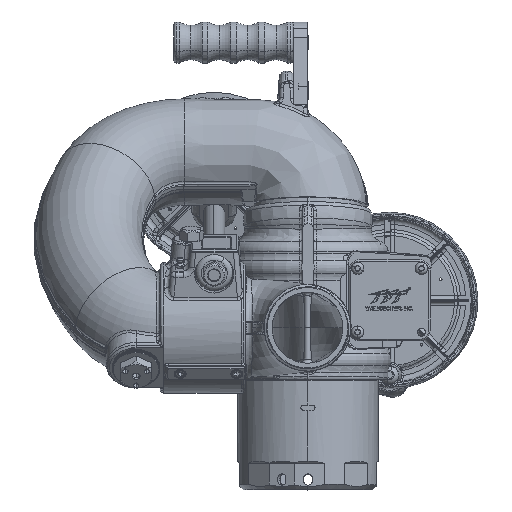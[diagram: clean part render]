
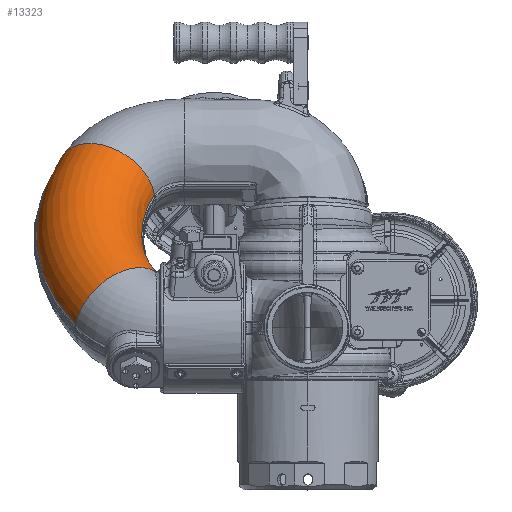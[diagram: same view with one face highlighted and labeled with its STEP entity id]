
A CAD part, top view. The second image highlights one B-rep face of the part: STEP entity #13323.
In plain terms, the highlighted toroidal (fillet/blend) face has major radius 177.8 mm and minor radius 47.625 mm.
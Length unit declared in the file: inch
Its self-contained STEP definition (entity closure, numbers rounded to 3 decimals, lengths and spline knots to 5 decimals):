
#2594 = CARTESIAN_POINT ( 'NONE',  ( -5.41843, 3.83215, 6.20855 ) ) ;
#3127 = EDGE_CURVE ( 'NONE', #125237, #134869, #101356, .T. ) ;
#4899 = CARTESIAN_POINT ( 'NONE',  ( -0.718, 4.91629, 3.26391 ) ) ;
#5608 = CARTESIAN_POINT ( 'NONE',  ( -5.39928, 3.84554, 5.80264 ) ) ;
#6657 = CARTESIAN_POINT ( 'NONE',  ( -5.41904, 3.8505, 6.06765 ) ) ;
#9954 = CIRCLE ( 'NONE', #157940, 1.875 ) ;
#11915 = TOROIDAL_SURFACE ( 'NONE', #150615, 7., 1.875 ) ;
#12062 = EDGE_CURVE ( 'NONE', #85840, #26609, #68679, .T. ) ;
#12130 = CARTESIAN_POINT ( 'NONE',  ( -0.718, 5.11304, 3.44106 ) ) ;
#12488 = CARTESIAN_POINT ( 'NONE',  ( -6.61621, 2.39384, 6.06538 ) ) ;
#13181 = DIRECTION ( 'NONE',  ( 0., 0.743, 0.669 ) ) ;
#13323 = ADVANCED_FACE ( 'NONE', ( #23693 ), #11915, .T. ) ;
#16028 = CARTESIAN_POINT ( 'NONE',  ( -5.41745, 3.8233, 6.26025 ) ) ;
#16342 = DIRECTION ( 'NONE',  ( 0., 0.743, 0.669 ) ) ;
#17154 = EDGE_CURVE ( 'NONE', #26609, #125237, #60540, .T. ) ;
#17807 = DIRECTION ( 'NONE',  ( 0., -0.669, 0.743 ) ) ;
#17964 = CARTESIAN_POINT ( 'NONE',  ( -5.34611, 3.73289, 5.42323 ) ) ;
#20927 = CIRCLE ( 'NONE', #92566, 1.875 ) ;
#23693 = FACE_OUTER_BOUND ( 'NONE', #105165, .T. ) ;
#26609 = VERTEX_POINT ( 'NONE', #28947 ) ;
#27975 = EDGE_CURVE ( 'NONE', #112322, #85840, #20927, .T. ) ;
#28947 = CARTESIAN_POINT ( 'NONE',  ( -5.41936, 3.83995, 6.15668 ) ) ;
#29782 = CARTESIAN_POINT ( 'NONE',  ( -5.41976, 3.84328, 6.1345 ) ) ;
#31378 = CARTESIAN_POINT ( 'NONE',  ( -5.38843, 3.83068, 5.71581 ) ) ;
#36533 = CARTESIAN_POINT ( 'NONE',  ( -8.18027, 1.92169, 6.98541 ) ) ;
#40027 = DIRECTION ( 'NONE',  ( 0.411, 0.61, -0.678 ) ) ;
#40960 = DIRECTION ( 'NONE',  ( 0., -0.743, -0.669 ) ) ;
#41664 = CARTESIAN_POINT ( 'NONE',  ( -5.38262, 3.82115, 5.6726 ) ) ;
#42195 = CARTESIAN_POINT ( 'NONE',  ( -5.41975, 3.84606, 6.11226 ) ) ;
#47547 = CARTESIAN_POINT ( 'NONE',  ( -5.40846, 6.53053, 1.87393 ) ) ;
#49836 = CARTESIAN_POINT ( 'NONE',  ( -5.31335, 3.56913, 5.16289 ) ) ;
#54582 = CARTESIAN_POINT ( 'NONE',  ( -5.40411, 3.8503, 5.84634 ) ) ;
#59566 = DIRECTION ( 'NONE',  ( 0., -0.743, -0.669 ) ) ;
#59844 = DIRECTION ( 'NONE',  ( -0.539, 0.564, -0.626 ) ) ;
#60540 = B_SPLINE_CURVE_WITH_KNOTS ( 'NONE', 3,
 ( #105197, #29782, #42195, #6657, #66396, #128412, #152698, #54582, #5608, #140859, #31378, #41664, #92820, #117590, #91771, #115490, #17964, #66927, #117055, #104144 ),
 .UNSPECIFIED., .F., .F.,
 ( 4, 2, 2, 2, 2, 2, 2, 2, 2, 4 ),
 ( 0., 0.00171, 0.00342, 0.00683, 0.01025, 0.01195, 0.01366, 0.01708, 0.02049, 0.02732 ),
 .UNSPECIFIED. ) ;
#65388 = AXIS2_PLACEMENT_3D ( 'NONE', #12130, #13181, #98277 ) ;
#66396 = CARTESIAN_POINT ( 'NONE',  ( -5.41833, 3.85215, 6.04527 ) ) ;
#66927 = CARTESIAN_POINT ( 'NONE',  ( -5.3295, 3.6723, 5.30681 ) ) ;
#68679 = B_SPLINE_CURVE_WITH_KNOTS ( 'NONE', 3,
 ( #137309, #16028, #2594, #102200 ),
 .UNSPECIFIED., .F., .F.,
 ( 4, 4 ),
 ( 0., 0.004 ),
 .UNSPECIFIED. ) ;
#69138 = CARTESIAN_POINT ( 'NONE',  ( -8.79264, 7.54713, 0.73773 ) ) ;
#71755 = ORIENTED_EDGE ( 'NONE', *, *, #3127, .T. ) ;
#74366 = DIRECTION ( 'NONE',  ( 0., 0.743, 0.669 ) ) ;
#85840 = VERTEX_POINT ( 'NONE', #98287 ) ;
#85891 = AXIS2_PLACEMENT_3D ( 'NONE', #109696, #59566, #120500 ) ;
#91771 = CARTESIAN_POINT ( 'NONE',  ( -5.36419, 3.78367, 5.54475 ) ) ;
#92566 = AXIS2_PLACEMENT_3D ( 'NONE', #12488, #59844, #74366 ) ;
#92589 = EDGE_CURVE ( 'NONE', #113756, #134869, #9954, .T. ) ;
#92820 = CARTESIAN_POINT ( 'NONE',  ( -5.37961, 3.81578, 5.65102 ) ) ;
#97536 = ORIENTED_EDGE ( 'NONE', *, *, #27975, .T. ) ;
#98277 = DIRECTION ( 'NONE',  ( 0., -0.669, 0.743 ) ) ;
#98287 = CARTESIAN_POINT ( 'NONE',  ( -5.41642, 3.81349, 6.31177 ) ) ;
#101356 = CIRCLE ( 'NONE', #85891, 5.14447 ) ;
#102200 = CARTESIAN_POINT ( 'NONE',  ( -5.41936, 3.83995, 6.15668 ) ) ;
#103974 = ORIENTED_EDGE ( 'NONE', *, *, #137226, .T. ) ;
#104144 = CARTESIAN_POINT ( 'NONE',  ( -5.31335, 3.56913, 5.16289 ) ) ;
#105165 = EDGE_LOOP ( 'NONE', ( #116070, #122524, #71755, #157500, #103974, #97536 ) ) ;
#105197 = CARTESIAN_POINT ( 'NONE',  ( -5.41936, 3.83995, 6.15668 ) ) ;
#109696 = CARTESIAN_POINT ( 'NONE',  ( -0.718, 5.1166, 3.44426 ) ) ;
#112322 = VERTEX_POINT ( 'NONE', #36533 ) ;
#112863 = CIRCLE ( 'NONE', #65388, 8.85622 ) ;
#113756 = VERTEX_POINT ( 'NONE', #69138 ) ;
#114902 = CARTESIAN_POINT ( 'NONE',  ( -7.10024, 6.84021, 1.12718 ) ) ;
#115490 = CARTESIAN_POINT ( 'NONE',  ( -5.35202, 3.75118, 5.46301 ) ) ;
#116070 = ORIENTED_EDGE ( 'NONE', *, *, #12062, .T. ) ;
#117055 = CARTESIAN_POINT ( 'NONE',  ( -5.31998, 3.62431, 5.2331 ) ) ;
#117590 = CARTESIAN_POINT ( 'NONE',  ( -5.37046, 3.79792, 5.58687 ) ) ;
#120500 = DIRECTION ( 'NONE',  ( 0., -0.669, 0.743 ) ) ;
#122524 = ORIENTED_EDGE ( 'NONE', *, *, #17154, .T. ) ;
#125237 = VERTEX_POINT ( 'NONE', #49836 ) ;
#128412 = CARTESIAN_POINT ( 'NONE',  ( -5.41532, 3.85537, 5.97848 ) ) ;
#134869 = VERTEX_POINT ( 'NONE', #47547 ) ;
#137226 = EDGE_CURVE ( 'NONE', #113756, #112322, #112863, .T. ) ;
#137309 = CARTESIAN_POINT ( 'NONE',  ( -5.41642, 3.81349, 6.31177 ) ) ;
#140859 = CARTESIAN_POINT ( 'NONE',  ( -5.39124, 3.83484, 5.73747 ) ) ;
#150615 = AXIS2_PLACEMENT_3D ( 'NONE', #4899, #40960, #17807 ) ;
#152698 = CARTESIAN_POINT ( 'NONE',  ( -5.41213, 3.85522, 5.93425 ) ) ;
#157500 = ORIENTED_EDGE ( 'NONE', *, *, #92589, .F. ) ;
#157940 = AXIS2_PLACEMENT_3D ( 'NONE', #114902, #40027, #16342 ) ;
